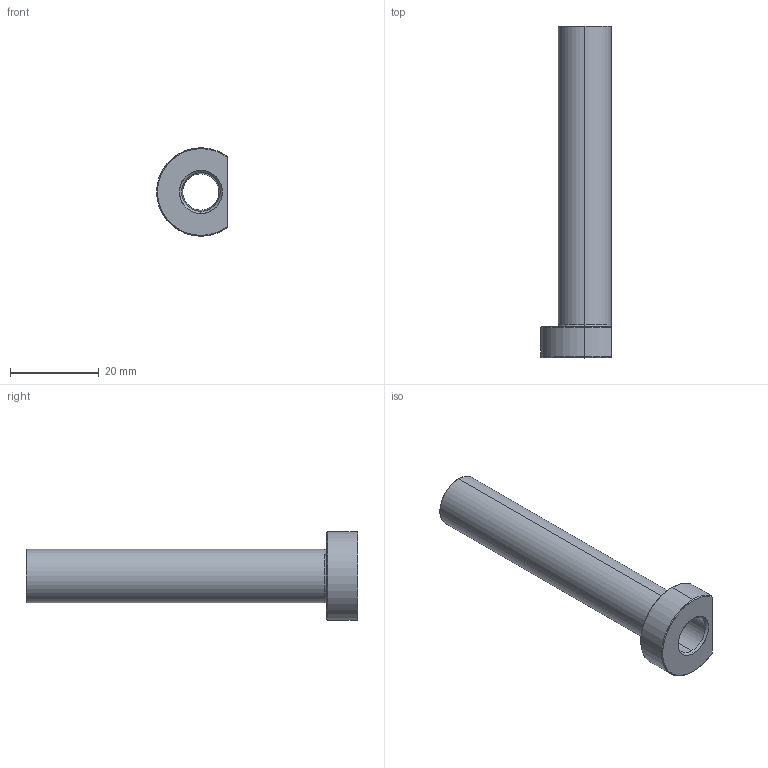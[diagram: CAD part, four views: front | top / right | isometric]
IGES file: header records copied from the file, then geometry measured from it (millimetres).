
Start section: SolidWorks IGES file using analytic representation for surfaces
Global section: file name: C:\Users\365admin\AppData\Local\Temp\InFlowConvert3DWorking\ESD082L75-K.igs; native system: SolidWorks 2019; preprocessor: SolidWorks 2019; author: 365admin; date: 220205.092055; units: millimetre
Bounding box: 16 x 75 x 20 mm (x, y, z)
Surface area: 5356.4 mm2 (no closed solid volume)
Topology: 0 solids, 0 shells, 26 faces, 294 edges, 294 vertices
Faces by surface type: revolution 19, bspline 7
